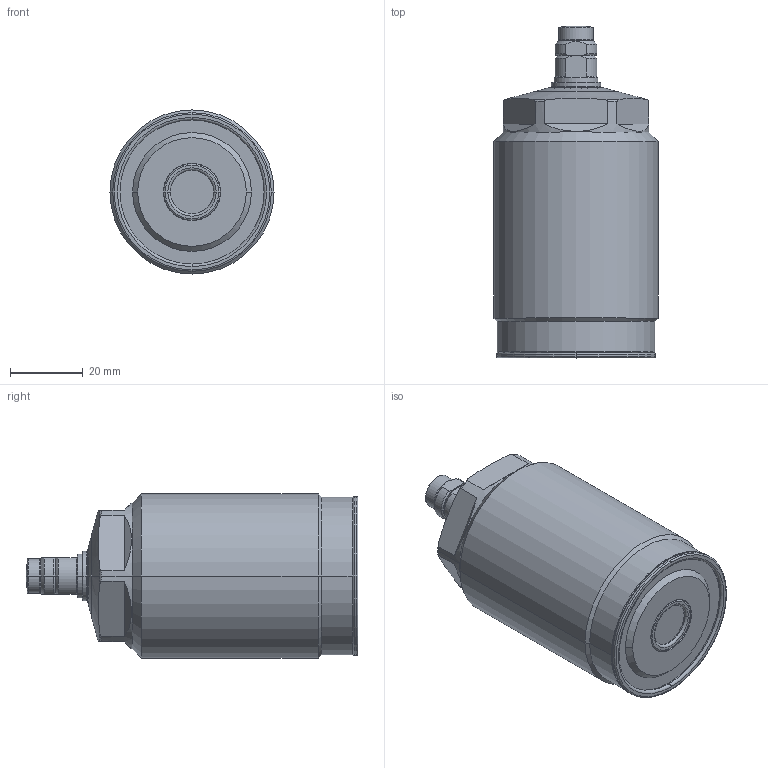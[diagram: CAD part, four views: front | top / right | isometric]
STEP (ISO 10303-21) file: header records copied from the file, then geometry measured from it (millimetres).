
FILE_DESCRIPTION(/* description */ (''),/* implementation_level */ '2;1');
FILE_NAME(/* name */ 'TNL45-M.stp',/* time_stamp */ '2023-07-04T10:19:47+08:00',/* author */ (''),/* organization */ (''),/* preprocessor_version */ 'ST-DEVELOPER v16.7',/* originating_system */ 'SIEMENS PLM Software NX 12.0',/* authorisation */ '');
FILE_SCHEMA (('AP203_CONFIGURATION_CONTROLLED_3D_DESIGN_OF_MECHANICAL_PARTS_AND_ASSEMBLIES_MIM_LF { 1 0 10303 403 2 1 2}'));
Length unit declared in the file: millimetre
Products named in the file (9): XLD-M8SP_pad; XLD-M8SP_pin; XLD-M8_Oring; XLD-M8SP_contactbolt; TNL45-M-03; TNL45-M-02; TNL45-M-01; TNL45-M-04; WNC3003-xM_step
Assembly tree (8 placements, depth 3):
  WNC3003-xM_step
    TNL45-M-01
    TNL45-M-02
    TNL45-M-03
    TNL45-M-04
      XLD-M8SP_contactbolt
      XLD-M8_Oring
      XLD-M8SP_pin
      XLD-M8SP_pad
Bounding box: 45 x 91 x 45 mm (x, y, z)
Volume: 109239 mm3; surface area: 15967.6 mm2
Topology: 7 solids, 7 shells, 201 faces, 452 edges, 273 vertices
Faces by surface type: cylinder 58, torus 56, plane 44, cone 37, sphere 6
Entity records: 7205 total; most frequent: CARTESIAN_POINT 1573, DIRECTION 1079, ORIENTED_EDGE 904, AXIS2_PLACEMENT_3D 475, EDGE_CURVE 452, VERTEX_POINT 273, CIRCLE 265, EDGE_LOOP 223
